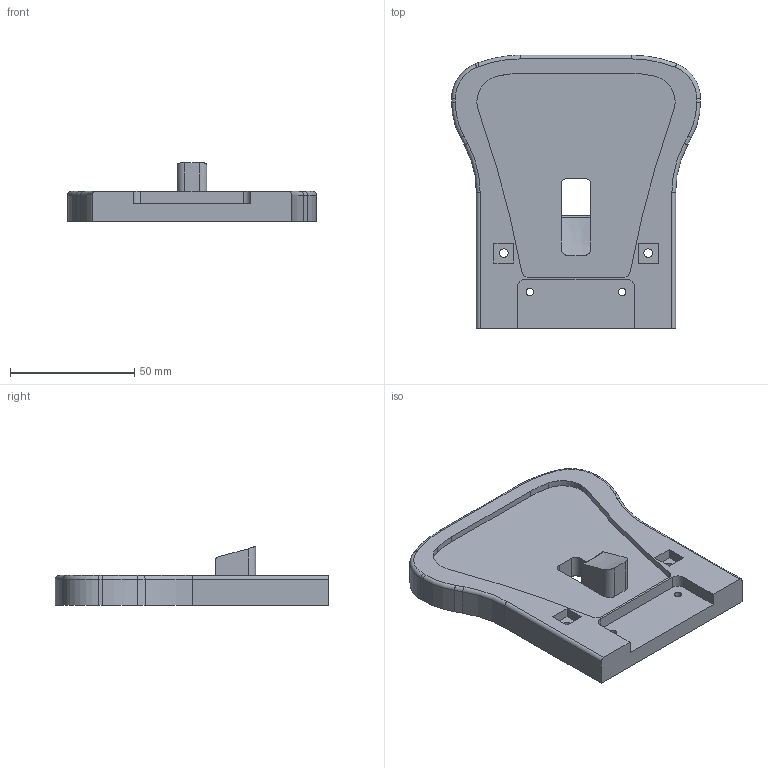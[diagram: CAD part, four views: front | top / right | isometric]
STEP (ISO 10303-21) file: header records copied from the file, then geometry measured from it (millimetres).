
FILE_DESCRIPTION(/* description */ (''),/* implementation_level */ '2;1');
FILE_NAME(/* name */ 'Modify part A.stp',/* time_stamp */ '2025-11-19T23:42:29+09:00',/* author */ (''),/* organization */ (''),/* preprocessor_version */ 'ST-DEVELOPER v11',/* originating_system */ 'SIEMENS PLM Software NX 7.5',/* authorisation */ '');
FILE_SCHEMA (('CONFIG_CONTROL_DESIGN'));
Length unit declared in the file: millimetre
Products named in the file (1): gyun8741ytc8
Bounding box: 100 x 109.9 x 23.57 mm (x, y, z)
Volume: 94021.8 mm3; surface area: 25373.7 mm2
Topology: 1 solids, 1 shells, 89 faces, 231 edges, 148 vertices
Faces by surface type: plane 39, cylinder 31, torus 7, bspline 6, cone 4, extrusion 2
Full cylindrical faces by diameter (mm): 3 x2, 3.5 x2, 5 x1
Entity records: 2857 total; most frequent: CARTESIAN_POINT 626, DIRECTION 442, ORIENTED_EDGE 438, EDGE_CURVE 219, AXIS2_PLACEMENT_3D 157, VERTEX_POINT 143, VECTOR 128, LINE 126
